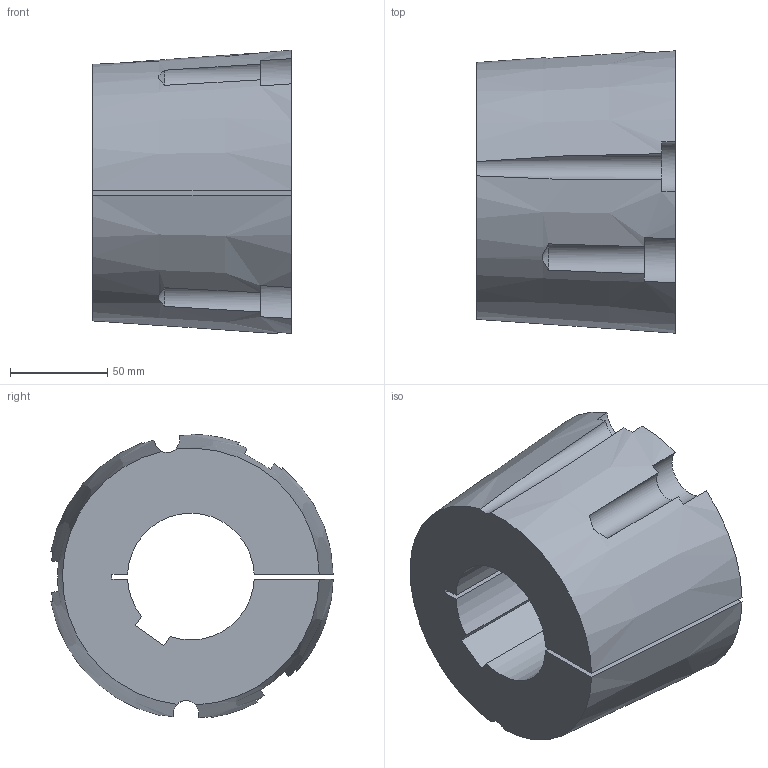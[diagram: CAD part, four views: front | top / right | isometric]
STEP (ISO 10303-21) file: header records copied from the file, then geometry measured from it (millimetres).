
FILE_DESCRIPTION( ( 'STEP AP203' ), '1' );
FILE_NAME( 'D:/export/antriebselemente/spannbuchsen_und_spannsaetze/taper-spannbuchsen_1008_bis_5050/taper-spannbuchsen_62251465Isometric_241.stp', '2018-12-11T11:11:33', ( '' ), ( '' ), ' ', 'PARTsolutions', ' ' );
FILE_SCHEMA( ( 'CONFIG_CONTROL_DESIGN' ) );
Length unit declared in the file: millimetre
Products named in the file (1): _taper-spannbuchsen_62251465
Bounding box: 102 x 144.84 x 145.4 mm (x, y, z)
Volume: 1144527.1 mm3; surface area: 101106.7 mm2
Topology: 1 solids, 1 shells, 34 faces, 96 edges, 64 vertices
Faces by surface type: plane 15, cylinder 13, cone 6
Entity records: 1310 total; most frequent: CARTESIAN_POINT 386, ORIENTED_EDGE 192, DIRECTION 186, EDGE_CURVE 96, AXIS2_PLACEMENT_3D 80, VERTEX_POINT 64, CIRCLE 45, ADVANCED_FACE 34
